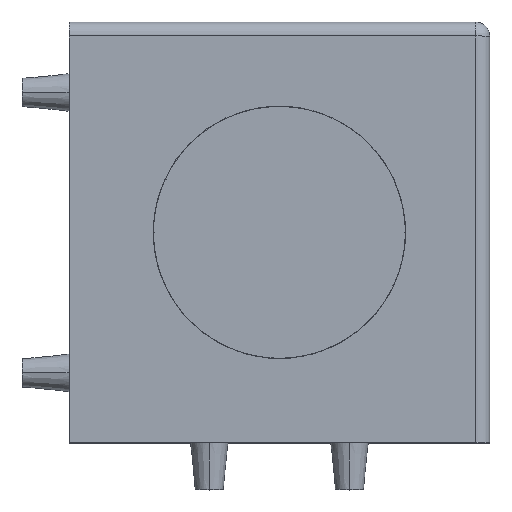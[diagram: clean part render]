
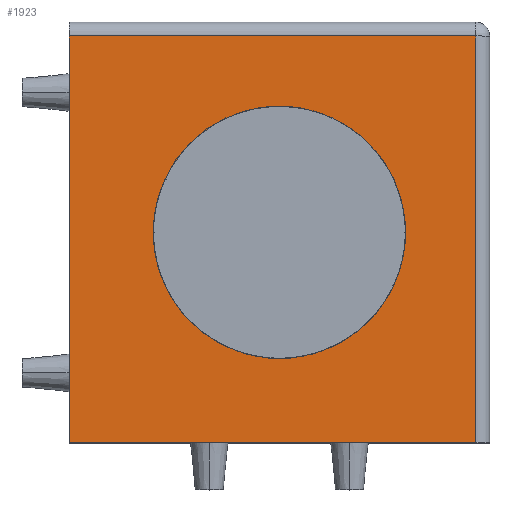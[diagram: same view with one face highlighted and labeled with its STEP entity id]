
A CAD part, top view. The second image highlights one B-rep face of the part: STEP entity #1923.
In plain terms, the highlighted planar face has unit normal (0, 0, 1).
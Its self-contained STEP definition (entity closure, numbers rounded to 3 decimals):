
#97 = CARTESIAN_POINT ( 'NONE',  ( 0., 0., 22.5 ) ) ;
#125 = VERTEX_POINT ( 'NONE', #3123 ) ;
#190 = CARTESIAN_POINT ( 'NONE',  ( 21., 22.5, 22.5 ) ) ;
#279 = DIRECTION ( 'NONE',  ( 0., 0., -1. ) ) ;
#326 = VECTOR ( 'NONE', #1950, 1000. ) ;
#386 = DIRECTION ( 'NONE',  ( -1., 0., 0. ) ) ;
#779 = FACE_BOUND ( 'NONE', #2430, .T. ) ;
#933 = EDGE_CURVE ( 'NONE', #2317, #125, #3547, .T. ) ;
#1085 = LINE ( 'NONE', #190, #326 ) ;
#1155 = VECTOR ( 'NONE', #3274, 1000. ) ;
#1201 = CARTESIAN_POINT ( 'NONE',  ( -22.5, -22.5, 22.5 ) ) ;
#1285 = ORIENTED_EDGE ( 'NONE', *, *, #3680, .T. ) ;
#1360 = VERTEX_POINT ( 'NONE', #1533 ) ;
#1496 = EDGE_CURVE ( 'NONE', #125, #2273, #1085, .T. ) ;
#1525 = ORIENTED_EDGE ( 'NONE', *, *, #1496, .T. ) ;
#1533 = CARTESIAN_POINT ( 'NONE',  ( 13.5, 0., 22.5 ) ) ;
#1593 = DIRECTION ( 'NONE',  ( 0., 0., -1. ) ) ;
#1678 = EDGE_CURVE ( 'NONE', #2783, #1360, #3184, .T. ) ;
#1772 = CARTESIAN_POINT ( 'NONE',  ( 21., 21., 22.5 ) ) ;
#1809 = DIRECTION ( 'NONE',  ( 0., -1., 0. ) ) ;
#1853 = CARTESIAN_POINT ( 'NONE',  ( -22.5, 21., 22.5 ) ) ;
#1906 = ORIENTED_EDGE ( 'NONE', *, *, #933, .T. ) ;
#1923 = ADVANCED_FACE ( 'NONE', ( #779, #3039 ), #2775, .F. ) ;
#1950 = DIRECTION ( 'NONE',  ( 0., 1., 0. ) ) ;
#2027 = CARTESIAN_POINT ( 'NONE',  ( 0., 0., 22.5 ) ) ;
#2032 = LINE ( 'NONE', #2978, #1155 ) ;
#2095 = ORIENTED_EDGE ( 'NONE', *, *, #3549, .T. ) ;
#2148 = DIRECTION ( 'NONE',  ( 0., 0., -1. ) ) ;
#2213 = ORIENTED_EDGE ( 'NONE', *, *, #1678, .T. ) ;
#2273 = VERTEX_POINT ( 'NONE', #1772 ) ;
#2275 = CIRCLE ( 'NONE', #3265, 13.5 ) ;
#2317 = VERTEX_POINT ( 'NONE', #1201 ) ;
#2336 = DIRECTION ( 'NONE',  ( -1., 0., 0. ) ) ;
#2430 = EDGE_LOOP ( 'NONE', ( #2518, #2213 ) ) ;
#2492 = AXIS2_PLACEMENT_3D ( 'NONE', #3069, #1593, #3671 ) ;
#2518 = ORIENTED_EDGE ( 'NONE', *, *, #2614, .T. ) ;
#2565 = AXIS2_PLACEMENT_3D ( 'NONE', #2027, #279, #2336 ) ;
#2614 = EDGE_CURVE ( 'NONE', #1360, #2783, #2275, .T. ) ;
#2642 = LINE ( 'NONE', #2717, #3246 ) ;
#2717 = CARTESIAN_POINT ( 'NONE',  ( -22.5, 22.5, 22.5 ) ) ;
#2732 = CARTESIAN_POINT ( 'NONE',  ( -22.5, -22.5, 22.5 ) ) ;
#2775 = PLANE ( 'NONE',  #2492 ) ;
#2783 = VERTEX_POINT ( 'NONE', #3729 ) ;
#2797 = EDGE_LOOP ( 'NONE', ( #1906, #1525, #2095, #1285 ) ) ;
#2978 = CARTESIAN_POINT ( 'NONE',  ( -22.5, 21., 22.5 ) ) ;
#3039 = FACE_OUTER_BOUND ( 'NONE', #2797, .T. ) ;
#3069 = CARTESIAN_POINT ( 'NONE',  ( -22.5, 22.5, 22.5 ) ) ;
#3123 = CARTESIAN_POINT ( 'NONE',  ( 21., -22.5, 22.5 ) ) ;
#3127 = VERTEX_POINT ( 'NONE', #1853 ) ;
#3184 = CIRCLE ( 'NONE', #2565, 13.5 ) ;
#3246 = VECTOR ( 'NONE', #1809, 1000. ) ;
#3265 = AXIS2_PLACEMENT_3D ( 'NONE', #97, #2148, #386 ) ;
#3274 = DIRECTION ( 'NONE',  ( -1., 0., 0. ) ) ;
#3290 = DIRECTION ( 'NONE',  ( 1., 0., 0. ) ) ;
#3547 = LINE ( 'NONE', #2732, #3640 ) ;
#3549 = EDGE_CURVE ( 'NONE', #2273, #3127, #2032, .T. ) ;
#3640 = VECTOR ( 'NONE', #3290, 1000. ) ;
#3671 = DIRECTION ( 'NONE',  ( -1., 0., 0. ) ) ;
#3680 = EDGE_CURVE ( 'NONE', #3127, #2317, #2642, .T. ) ;
#3729 = CARTESIAN_POINT ( 'NONE',  ( -13.5, 0., 22.5 ) ) ;
